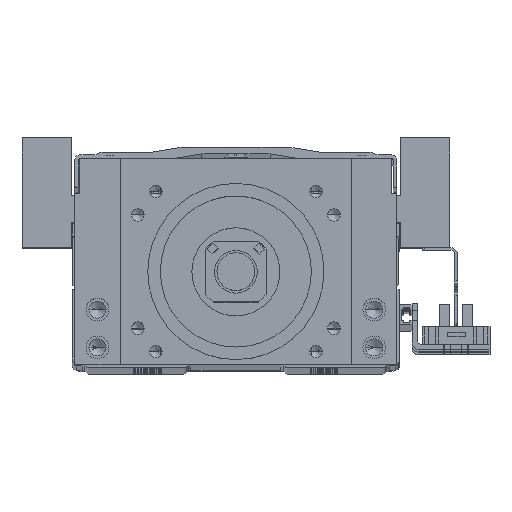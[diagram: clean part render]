
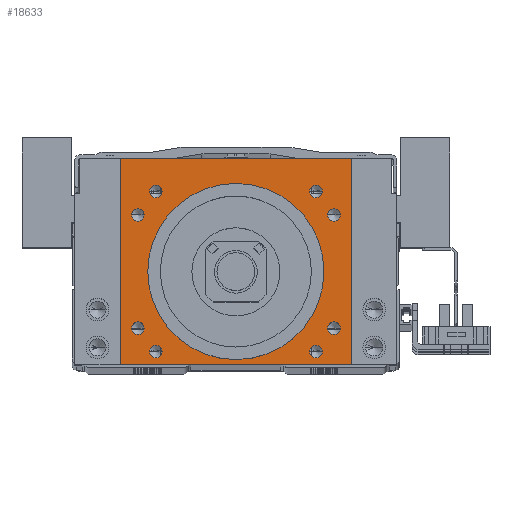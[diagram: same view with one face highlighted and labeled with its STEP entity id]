
A CAD part, top view. The second image highlights one B-rep face of the part: STEP entity #18633.
In plain terms, the highlighted planar face has unit normal (0, 0, 1).
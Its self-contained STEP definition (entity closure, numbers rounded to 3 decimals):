
#3558=DIRECTION('',(1.,0.,0.));
#3559=VECTOR('',#3558,92.);
#3560=CARTESIAN_POINT('',(-46.,83.,100.));
#3561=LINE('',#3560,#3559);
#4821=DIRECTION('',(0.,1.,0.));
#4822=VECTOR('',#4821,82.);
#4823=CARTESIAN_POINT('',(-46.,1.,100.));
#4824=LINE('',#4823,#4822);
#4869=DIRECTION('',(-1.,0.,0.));
#4870=VECTOR('',#4869,92.);
#4871=CARTESIAN_POINT('',(46.,1.,100.));
#4872=LINE('',#4871,#4870);
#4993=DIRECTION('',(0.,-1.,0.));
#4994=VECTOR('',#4993,82.);
#4995=CARTESIAN_POINT('',(46.,83.,100.));
#4996=LINE('',#4995,#4994);
#5021=CARTESIAN_POINT('',(-38.971,15.5,100.));
#5022=DIRECTION('',(0.,0.,-1.));
#5023=DIRECTION('',(-1.,0.,0.));
#5024=AXIS2_PLACEMENT_3D('',#5021,#5022,#5023);
#5026=CARTESIAN_POINT('',(-38.971,15.5,100.));
#5027=DIRECTION('',(0.,0.,-1.));
#5028=DIRECTION('',(1.,0.,0.));
#5029=AXIS2_PLACEMENT_3D('',#5026,#5027,#5028);
#5031=CARTESIAN_POINT('',(38.971,60.5,100.));
#5032=DIRECTION('',(0.,0.,-1.));
#5033=DIRECTION('',(1.,0.,0.));
#5034=AXIS2_PLACEMENT_3D('',#5031,#5032,#5033);
#5036=CARTESIAN_POINT('',(38.971,60.5,100.));
#5037=DIRECTION('',(0.,0.,-1.));
#5038=DIRECTION('',(-1.,0.,0.));
#5039=AXIS2_PLACEMENT_3D('',#5036,#5037,#5038);
#5041=CARTESIAN_POINT('',(38.971,15.5,100.));
#5042=DIRECTION('',(0.,0.,-1.));
#5043=DIRECTION('',(1.,0.,0.));
#5044=AXIS2_PLACEMENT_3D('',#5041,#5042,#5043);
#5046=CARTESIAN_POINT('',(38.971,15.5,100.));
#5047=DIRECTION('',(0.,0.,-1.));
#5048=DIRECTION('',(-1.,0.,0.));
#5049=AXIS2_PLACEMENT_3D('',#5046,#5047,#5048);
#5051=CARTESIAN_POINT('',(-38.971,60.5,100.));
#5052=DIRECTION('',(0.,0.,-1.));
#5053=DIRECTION('',(-1.,0.,0.));
#5054=AXIS2_PLACEMENT_3D('',#5051,#5052,#5053);
#5056=CARTESIAN_POINT('',(-38.971,60.5,100.));
#5057=DIRECTION('',(0.,0.,-1.));
#5058=DIRECTION('',(1.,0.,0.));
#5059=AXIS2_PLACEMENT_3D('',#5056,#5057,#5058);
#5061=CARTESIAN_POINT('',(0.,38.,100.));
#5062=DIRECTION('',(0.,0.,-1.));
#5063=DIRECTION('',(1.,0.,0.));
#5064=AXIS2_PLACEMENT_3D('',#5061,#5062,#5063);
#5066=CARTESIAN_POINT('',(0.,38.,100.));
#5067=DIRECTION('',(0.,0.,-1.));
#5068=DIRECTION('',(-1.,0.,0.));
#5069=AXIS2_PLACEMENT_3D('',#5066,#5067,#5068);
#5071=CARTESIAN_POINT('',(-31.82,69.82,100.));
#5072=DIRECTION('',(0.,0.,-1.));
#5073=DIRECTION('',(1.,0.,0.));
#5074=AXIS2_PLACEMENT_3D('',#5071,#5072,#5073);
#5076=CARTESIAN_POINT('',(-31.82,69.82,100.));
#5077=DIRECTION('',(0.,0.,-1.));
#5078=DIRECTION('',(-1.,0.,0.));
#5079=AXIS2_PLACEMENT_3D('',#5076,#5077,#5078);
#5081=CARTESIAN_POINT('',(-31.82,6.18,100.));
#5082=DIRECTION('',(0.,0.,-1.));
#5083=DIRECTION('',(1.,0.,0.));
#5084=AXIS2_PLACEMENT_3D('',#5081,#5082,#5083);
#5086=CARTESIAN_POINT('',(-31.82,6.18,100.));
#5087=DIRECTION('',(0.,0.,-1.));
#5088=DIRECTION('',(-1.,0.,0.));
#5089=AXIS2_PLACEMENT_3D('',#5086,#5087,#5088);
#5091=CARTESIAN_POINT('',(31.82,6.18,100.));
#5092=DIRECTION('',(0.,0.,-1.));
#5093=DIRECTION('',(1.,0.,0.));
#5094=AXIS2_PLACEMENT_3D('',#5091,#5092,#5093);
#5096=CARTESIAN_POINT('',(31.82,6.18,100.));
#5097=DIRECTION('',(0.,0.,-1.));
#5098=DIRECTION('',(-1.,0.,0.));
#5099=AXIS2_PLACEMENT_3D('',#5096,#5097,#5098);
#5101=CARTESIAN_POINT('',(31.82,69.82,100.));
#5102=DIRECTION('',(0.,0.,-1.));
#5103=DIRECTION('',(1.,0.,0.));
#5104=AXIS2_PLACEMENT_3D('',#5101,#5102,#5103);
#5106=CARTESIAN_POINT('',(31.82,69.82,100.));
#5107=DIRECTION('',(0.,0.,-1.));
#5108=DIRECTION('',(-1.,0.,0.));
#5109=AXIS2_PLACEMENT_3D('',#5106,#5107,#5108);
#10089=CARTESIAN_POINT('',(-46.,83.,100.));
#10090=VERTEX_POINT('',#10089);
#10091=CARTESIAN_POINT('',(46.,83.,100.));
#10092=VERTEX_POINT('',#10091);
#10905=CARTESIAN_POINT('',(-46.,1.,100.));
#10907=VERTEX_POINT('',#10905);
#10908=CARTESIAN_POINT('',(46.,1.,100.));
#10909=VERTEX_POINT('',#10908);
#12263=CARTESIAN_POINT('',(35.015,38.,100.));
#12265=VERTEX_POINT('',#12263);
#12267=CARTESIAN_POINT('',(-35.015,38.,100.));
#12269=VERTEX_POINT('',#12267);
#12271=CARTESIAN_POINT('',(-36.471,60.5,100.));
#12273=VERTEX_POINT('',#12271);
#12275=CARTESIAN_POINT('',(-41.471,60.5,100.));
#12277=VERTEX_POINT('',#12275);
#12281=CARTESIAN_POINT('',(-36.471,15.5,100.));
#12283=VERTEX_POINT('',#12281);
#12285=CARTESIAN_POINT('',(-41.471,15.5,100.));
#12287=VERTEX_POINT('',#12285);
#12290=CARTESIAN_POINT('',(41.471,60.5,100.));
#12292=VERTEX_POINT('',#12290);
#12294=CARTESIAN_POINT('',(36.471,60.5,100.));
#12296=VERTEX_POINT('',#12294);
#12300=CARTESIAN_POINT('',(41.471,15.5,100.));
#12302=VERTEX_POINT('',#12300);
#12304=CARTESIAN_POINT('',(36.471,15.5,100.));
#12306=VERTEX_POINT('',#12304);
#12342=CARTESIAN_POINT('',(-29.32,69.82,100.));
#12343=VERTEX_POINT('',#12342);
#12344=CARTESIAN_POINT('',(-34.32,69.82,100.));
#12345=VERTEX_POINT('',#12344);
#12347=CARTESIAN_POINT('',(-29.32,6.18,100.));
#12349=VERTEX_POINT('',#12347);
#12351=CARTESIAN_POINT('',(-34.32,6.18,100.));
#12353=VERTEX_POINT('',#12351);
#12357=CARTESIAN_POINT('',(34.32,6.18,100.));
#12359=VERTEX_POINT('',#12357);
#12361=CARTESIAN_POINT('',(29.32,6.18,100.));
#12363=VERTEX_POINT('',#12361);
#12366=CARTESIAN_POINT('',(34.32,69.82,100.));
#12367=VERTEX_POINT('',#12366);
#12368=CARTESIAN_POINT('',(29.32,69.82,100.));
#12369=VERTEX_POINT('',#12368);
#18568=CARTESIAN_POINT('',(0.,38.,100.));
#18569=DIRECTION('',(0.,0.,1.));
#18570=DIRECTION('',(-1.,0.,0.));
#18571=AXIS2_PLACEMENT_3D('',#18568,#18569,#18570);
#18572=PLANE('',#18571);
#18573=ORIENTED_EDGE('',*,*,#18531,.T.);
#18574=ORIENTED_EDGE('',*,*,#18417,.T.);
#18575=ORIENTED_EDGE('',*,*,#18363,.T.);
#18576=ORIENTED_EDGE('',*,*,#16638,.T.);
#18577=EDGE_LOOP('',(#18573,#18574,#18575,#18576));
#18578=FACE_OUTER_BOUND('',#18577,.F.);
#18580=ORIENTED_EDGE('',*,*,#18579,.F.);
#18582=ORIENTED_EDGE('',*,*,#18581,.F.);
#18583=EDGE_LOOP('',(#18580,#18582));
#18584=FACE_BOUND('',#18583,.F.);
#18586=ORIENTED_EDGE('',*,*,#18585,.F.);
#18588=ORIENTED_EDGE('',*,*,#18587,.F.);
#18589=EDGE_LOOP('',(#18586,#18588));
#18590=FACE_BOUND('',#18589,.F.);
#18592=ORIENTED_EDGE('',*,*,#18591,.F.);
#18594=ORIENTED_EDGE('',*,*,#18593,.F.);
#18595=EDGE_LOOP('',(#18592,#18594));
#18596=FACE_BOUND('',#18595,.F.);
#18598=ORIENTED_EDGE('',*,*,#18597,.F.);
#18600=ORIENTED_EDGE('',*,*,#18599,.F.);
#18601=EDGE_LOOP('',(#18598,#18600));
#18602=FACE_BOUND('',#18601,.F.);
#18604=ORIENTED_EDGE('',*,*,#18603,.F.);
#18606=ORIENTED_EDGE('',*,*,#18605,.F.);
#18607=EDGE_LOOP('',(#18604,#18606));
#18608=FACE_BOUND('',#18607,.F.);
#18610=ORIENTED_EDGE('',*,*,#18609,.F.);
#18612=ORIENTED_EDGE('',*,*,#18611,.F.);
#18613=EDGE_LOOP('',(#18610,#18612));
#18614=FACE_BOUND('',#18613,.F.);
#18616=ORIENTED_EDGE('',*,*,#18615,.F.);
#18618=ORIENTED_EDGE('',*,*,#18617,.F.);
#18619=EDGE_LOOP('',(#18616,#18618));
#18620=FACE_BOUND('',#18619,.F.);
#18622=ORIENTED_EDGE('',*,*,#18621,.F.);
#18624=ORIENTED_EDGE('',*,*,#18623,.F.);
#18625=EDGE_LOOP('',(#18622,#18624));
#18626=FACE_BOUND('',#18625,.F.);
#18628=ORIENTED_EDGE('',*,*,#18627,.F.);
#18630=ORIENTED_EDGE('',*,*,#18629,.F.);
#18631=EDGE_LOOP('',(#18628,#18630));
#18632=FACE_BOUND('',#18631,.F.);
#5025=CIRCLE('',#5024,2.5);
#5030=CIRCLE('',#5029,2.5);
#5035=CIRCLE('',#5034,2.5);
#5040=CIRCLE('',#5039,2.5);
#5045=CIRCLE('',#5044,2.5);
#5050=CIRCLE('',#5049,2.5);
#5055=CIRCLE('',#5054,2.5);
#5060=CIRCLE('',#5059,2.5);
#5065=CIRCLE('',#5064,35.015);
#5070=CIRCLE('',#5069,35.015);
#5075=CIRCLE('',#5074,2.5);
#5080=CIRCLE('',#5079,2.5);
#5085=CIRCLE('',#5084,2.5);
#5090=CIRCLE('',#5089,2.5);
#5095=CIRCLE('',#5094,2.5);
#5100=CIRCLE('',#5099,2.5);
#5105=CIRCLE('',#5104,2.5);
#5110=CIRCLE('',#5109,2.5);
#16638=EDGE_CURVE('',#10090,#10092,#3561,.T.);
#18363=EDGE_CURVE('',#10907,#10090,#4824,.T.);
#18417=EDGE_CURVE('',#10909,#10907,#4872,.T.);
#18531=EDGE_CURVE('',#10092,#10909,#4996,.T.);
#18579=EDGE_CURVE('',#12287,#12283,#5025,.T.);
#18581=EDGE_CURVE('',#12283,#12287,#5030,.T.);
#18585=EDGE_CURVE('',#12292,#12296,#5035,.T.);
#18587=EDGE_CURVE('',#12296,#12292,#5040,.T.);
#18591=EDGE_CURVE('',#12302,#12306,#5045,.T.);
#18593=EDGE_CURVE('',#12306,#12302,#5050,.T.);
#18597=EDGE_CURVE('',#12277,#12273,#5055,.T.);
#18599=EDGE_CURVE('',#12273,#12277,#5060,.T.);
#18603=EDGE_CURVE('',#12265,#12269,#5065,.T.);
#18605=EDGE_CURVE('',#12269,#12265,#5070,.T.);
#18609=EDGE_CURVE('',#12343,#12345,#5075,.T.);
#18611=EDGE_CURVE('',#12345,#12343,#5080,.T.);
#18615=EDGE_CURVE('',#12349,#12353,#5085,.T.);
#18617=EDGE_CURVE('',#12353,#12349,#5090,.T.);
#18621=EDGE_CURVE('',#12359,#12363,#5095,.T.);
#18623=EDGE_CURVE('',#12363,#12359,#5100,.T.);
#18627=EDGE_CURVE('',#12367,#12369,#5105,.T.);
#18629=EDGE_CURVE('',#12369,#12367,#5110,.T.);
#18633=ADVANCED_FACE('',(#18578,#18584,#18590,#18596,#18602,#18608,#18614,
#18620,#18626,#18632),#18572,.T.);
